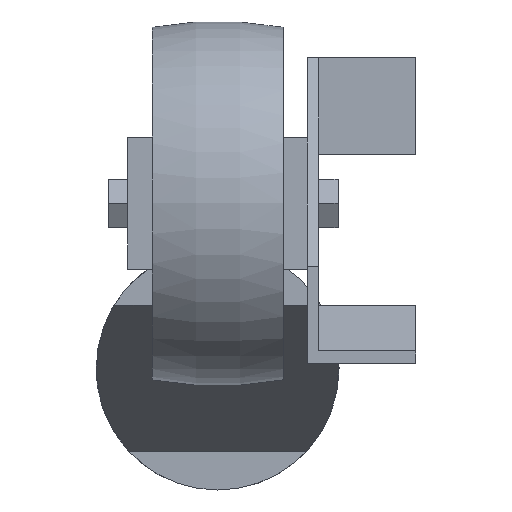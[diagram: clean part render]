
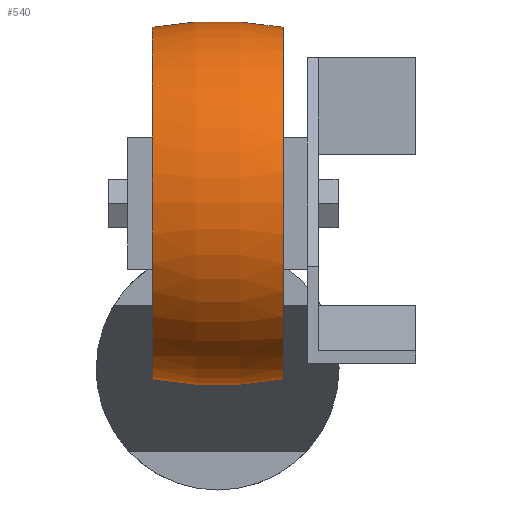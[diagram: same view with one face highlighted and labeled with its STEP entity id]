
A CAD part, front view. The second image highlights one B-rep face of the part: STEP entity #540.
In plain terms, the highlighted toroidal (fillet/blend) face has major radius 37.5 mm and minor radius 75 mm.
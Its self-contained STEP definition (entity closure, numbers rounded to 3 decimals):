
#165 = EDGE_CURVE ( 'NONE', #169, #1449, #577, .T. ) ;
#169 = VERTEX_POINT ( 'NONE', #284 ) ;
#282 = DIRECTION ( 'NONE',  ( 0., 0., 1. ) ) ;
#284 = CARTESIAN_POINT ( 'NONE',  ( 13.5, -60.5, 70.275 ) ) ;
#395 = CARTESIAN_POINT ( 'NONE',  ( 0., -60.5, 34. ) ) ;
#419 = DIRECTION ( 'NONE',  ( 0., 1., 0. ) ) ;
#540 = ADVANCED_FACE ( 'NONE', ( #1349 ), #1079, .T. ) ;
#541 = EDGE_CURVE ( 'NONE', #1342, #1449, #1415, .T. ) ;
#543 = DIRECTION ( 'NONE',  ( 0., 0., 1. ) ) ;
#546 = DIRECTION ( 'NONE',  ( 0., 0., 1. ) ) ;
#548 = CARTESIAN_POINT ( 'NONE',  ( 0., -60.5, -3.5 ) ) ;
#577 = CIRCLE ( 'NONE', #1021, 75. ) ;
#667 = EDGE_CURVE ( 'NONE', #683, #1342, #1298, .T. ) ;
#683 = VERTEX_POINT ( 'NONE', #830 ) ;
#735 = EDGE_LOOP ( 'NONE', ( #1109, #892, #965, #1000 ) ) ;
#743 = AXIS2_PLACEMENT_3D ( 'NONE', #1604, #792, #546 ) ;
#792 = DIRECTION ( 'NONE',  ( -1., 0., 0. ) ) ;
#830 = CARTESIAN_POINT ( 'NONE',  ( 13.5, -60.5, -2.275 ) ) ;
#892 = ORIENTED_EDGE ( 'NONE', *, *, #1542, .T. ) ;
#942 = AXIS2_PLACEMENT_3D ( 'NONE', #1631, #419, #543 ) ;
#965 = ORIENTED_EDGE ( 'NONE', *, *, #165, .T. ) ;
#973 = AXIS2_PLACEMENT_3D ( 'NONE', #1095, #986, #1230 ) ;
#986 = DIRECTION ( 'NONE',  ( -1., 0., 0. ) ) ;
#1000 = ORIENTED_EDGE ( 'NONE', *, *, #541, .F. ) ;
#1021 = AXIS2_PLACEMENT_3D ( 'NONE', #548, #1358, #1622 ) ;
#1079 = TOROIDAL_SURFACE ( 'NONE', #1588, -37.5, 75. ) ;
#1095 = CARTESIAN_POINT ( 'NONE',  ( 13.5, -60.5, 34. ) ) ;
#1105 = CIRCLE ( 'NONE', #973, 36.275 ) ;
#1109 = ORIENTED_EDGE ( 'NONE', *, *, #667, .F. ) ;
#1230 = DIRECTION ( 'NONE',  ( 0., 0., 1. ) ) ;
#1298 = CIRCLE ( 'NONE', #942, 75. ) ;
#1342 = VERTEX_POINT ( 'NONE', #1743 ) ;
#1349 = FACE_OUTER_BOUND ( 'NONE', #735, .T. ) ;
#1358 = DIRECTION ( 'NONE',  ( 0., -1., 0. ) ) ;
#1415 = CIRCLE ( 'NONE', #743, 36.275 ) ;
#1449 = VERTEX_POINT ( 'NONE', #1460 ) ;
#1460 = CARTESIAN_POINT ( 'NONE',  ( -13.5, -60.5, 70.275 ) ) ;
#1490 = DIRECTION ( 'NONE',  ( -1., 0., 0. ) ) ;
#1542 = EDGE_CURVE ( 'NONE', #683, #169, #1105, .T. ) ;
#1588 = AXIS2_PLACEMENT_3D ( 'NONE', #395, #1490, #282 ) ;
#1604 = CARTESIAN_POINT ( 'NONE',  ( -13.5, -60.5, 34. ) ) ;
#1622 = DIRECTION ( 'NONE',  ( 0., 0., -1. ) ) ;
#1631 = CARTESIAN_POINT ( 'NONE',  ( 0., -60.5, 71.5 ) ) ;
#1743 = CARTESIAN_POINT ( 'NONE',  ( -13.5, -60.5, -2.275 ) ) ;
